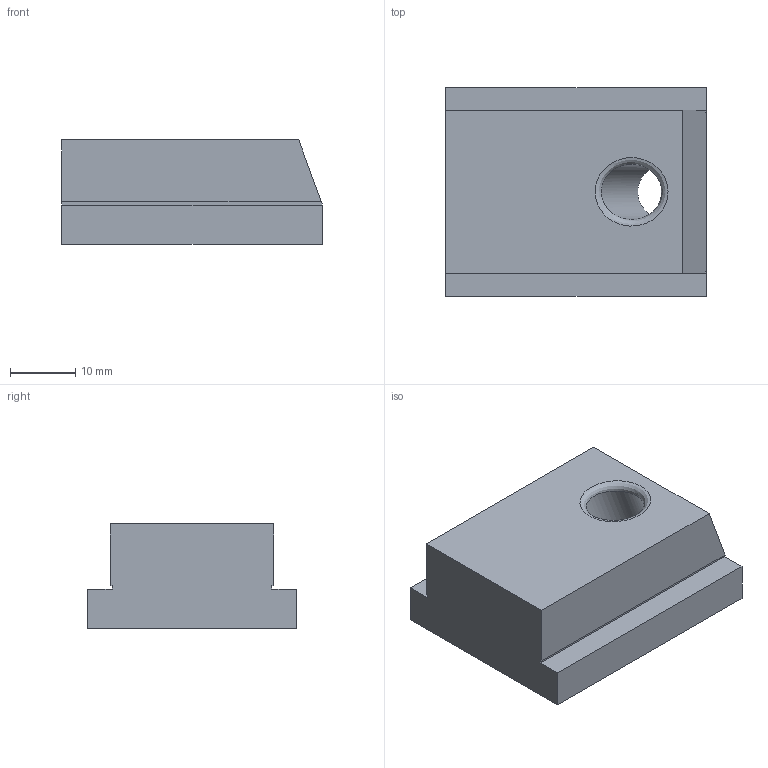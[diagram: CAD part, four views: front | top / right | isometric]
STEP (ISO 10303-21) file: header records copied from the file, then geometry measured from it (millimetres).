
FILE_DESCRIPTION (( 'STEP AP214' ), '1' );
FILE_NAME ('Schieber_-_H16 B25 L40.step', '2024-01-15T11:27:01', ( '' ), ( '' ), 'SwSTEP 2.0', 'SolidWorks 2020', '' );
FILE_SCHEMA (( 'AUTOMOTIVE_DESIGN' ));
Length unit declared in the file: millimetre
Products named in the file (1): Schieber_-_H16 B25 L40
Bounding box: 40 x 32 x 16 mm (x, y, z)
Volume: 16238.8 mm3; surface area: 4982.5 mm2
Topology: 1 solids, 1 shells, 205 faces, 546 edges, 363 vertices
Faces by surface type: plane 119, bspline 85, cylinder 1
Full cylindrical faces by diameter (mm): 8.5 x1
Entity records: 10738 total; most frequent: CARTESIAN_POINT 6188, ORIENTED_EDGE 1088, DIRECTION 615, EDGE_CURVE 544, VECTOR 373, LINE 373, VERTEX_POINT 363, EDGE_LOOP 229
